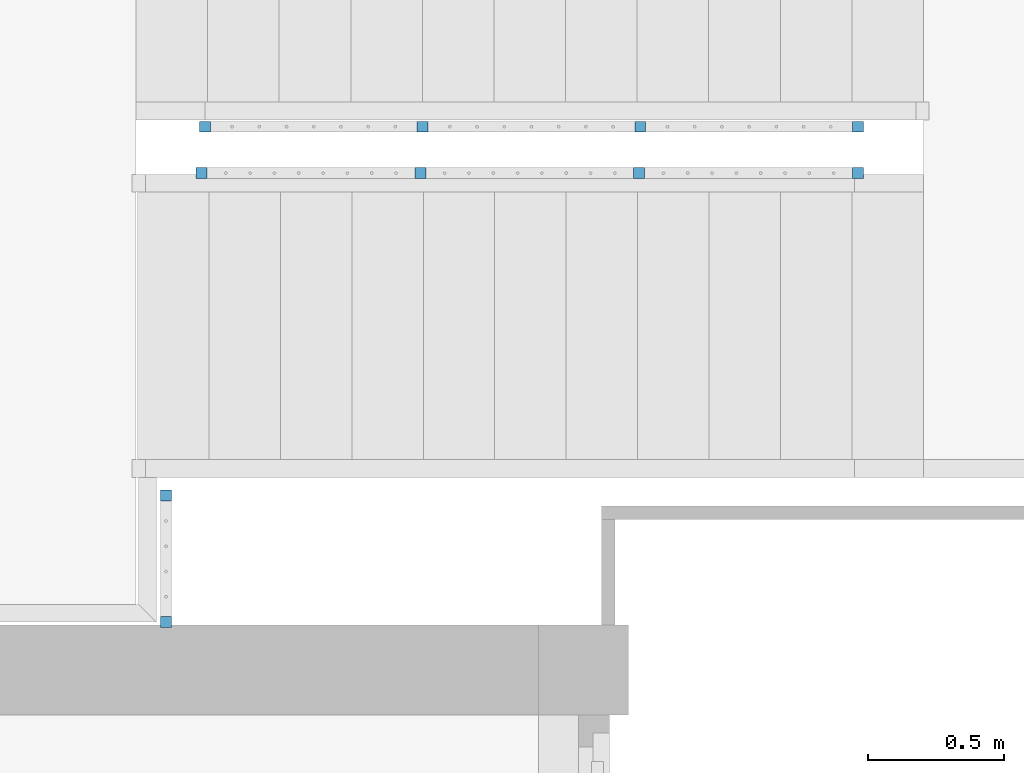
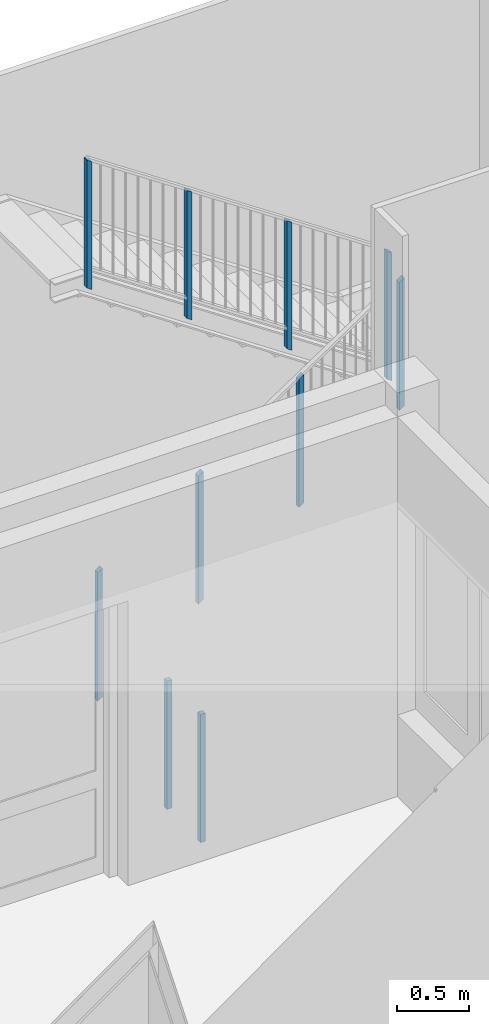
# One storey, part 2 of 117: 10 members, 3 elements without a shape of their own.
"""IFC2X3 building model written with IfcOpenShell, lengths in millimetres."""

from ifc_helpers import new_model, entity, si_unit, converted_unit, derived_unit, money_unit, direction, frame, origin_with_axes, place, context, subcontext, project, spatial, faceted_brep, source, transform, mapped, material, type_object, type_shapes, element, aggregate, save


model = new_model("IFC2X3")

# Units and contexts
model_context = context("Model", 3, precision=0.01, world=origin_with_axes(), true_north=direction((0.0, 1.0)))
body_context = subcontext(model_context, "Body", "Model", "MODEL_VIEW")
ifc_project = project(units=[si_unit("LENGTHUNIT", "METRE", prefix="MILLI"), si_unit("AREAUNIT", "SQUARE_METRE"), si_unit("VOLUMEUNIT", "CUBIC_METRE"), converted_unit("PLANEANGLEUNIT", "DEGREE", entity("IfcPlaneAngleMeasure", 0.0174532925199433), si_unit("PLANEANGLEUNIT", "RADIAN"), dimensions=[0, 0, 0, 0, 0, 0, 0]), money_unit("EUR"), converted_unit("TIMEUNIT", "Year", entity("IfcTimeMeasure", 31557600.0), si_unit("TIMEUNIT", "SECOND"), dimensions=[0, 0, 1, 0, 0, 0, 0]), si_unit("MASSUNIT", "GRAM", prefix="KILO"), si_unit("THERMODYNAMICTEMPERATUREUNIT", "DEGREE_CELSIUS"), si_unit("LUMINOUSINTENSITYUNIT", "LUMEN"), si_unit("ENERGYUNIT", "JOULE", prefix="MEGA"), derived_unit("THERMALCONDUCTANCEUNIT", [(si_unit("POWERUNIT", "WATT"), 1), (si_unit("LENGTHUNIT", "METRE"), -1), (si_unit("THERMODYNAMICTEMPERATUREUNIT", "KELVIN"), -1)]), derived_unit("SPECIFICHEATCAPACITYUNIT", [(si_unit("ENERGYUNIT", "JOULE"), 1), (si_unit("MASSUNIT", "GRAM", prefix="KILO"), -1), (si_unit("THERMODYNAMICTEMPERATUREUNIT", "KELVIN"), -1)]), derived_unit("MASSDENSITYUNIT", [(si_unit("MASSUNIT", "GRAM", prefix="KILO"), 1), (si_unit("VOLUMEUNIT", "CUBIC_METRE"), -1)])], contexts=[model_context])

# Site, building, storey
site_placement = place(None, origin_with_axes())
site = spatial("IfcSite", under=ifc_project, at=site_placement, Name="Site", CompositionType="ELEMENT")
building_placement = place(site_placement, origin_with_axes())
building = spatial("IfcBuilding", under=site, at=building_placement, Name="Naam gebouw", CompositionType="ELEMENT")
storey_placement = place(building_placement, frame((0.0, 0.0, 4150.0), z_axis=(0.0, 0.0, 1.0), x_axis=(1.0, 0.0, 0.0)))
storey = spatial("IfcBuildingStorey", under=building, at=storey_placement, Name="1e verdieping N", CompositionType="ELEMENT", Elevation=4150.0)

# Railing, members
railing_type = type_object("IfcRailingType", Name="Railing Type", PredefinedType="NOTDEFINED")
railing_1_placement = place(storey_placement, frame((56209.65277777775, 21185.9124251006, 0.0), z_axis=(0.0, 0.0, 1.0), x_axis=(1.0, 0.0, 0.0)))
railing_1 = element("IfcRailing", 1, at=railing_1_placement, inside=storey, type_object=railing_type, Name="_Reling-x", PredefinedType="NOTDEFINED")
ifc_material = material(Name="Metaal - Staal C")
member_type = type_object("IfcMemberType", Name="IfcMember", PredefinedType="POST")
shared_shape_1 = source(origin_with_axes(), body_context, "Body", "Brep", [
    faceted_brep([(20.0, 20.0, 0.0), (-20.0, 20.0, 0.0), (-20.00000000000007, 20.0, 1080.0), (19.99999999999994, 20.0, 1080.0), (20.0, -20.0, 0.0), (-20.0, -20.0, 0.0), (-20.00000000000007, -20.0, 1080.0), (19.99999999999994, -20.0, 1080.0)], [[[0, 1, 2, 3]], [[0, 4, 5, 1]], [[1, 5, 6, 2]], [[3, 2, 6, 7]], [[4, 0, 3, 7]], [[5, 4, 7, 6]]]),
])
member_1_placement = place(railing_1_placement, frame((24.99999999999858, -519.999999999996, -100.0000000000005), z_axis=(0.0, 0.0, 1.0), x_axis=(1.0, 0.0, 0.0)))
member_1 = element("IfcMember", 2, at=member_1_placement, type_object=member_type, material=ifc_material, Name="_Hoofdbaluster-x", ObjectType="POST", context=body_context, shape_type="MappedRepresentation", body=[
    mapped(shared_shape_1, transform((0.0, 0.0, 0.0))),
])
member_2_placement = place(railing_1_placement, frame((24.99999999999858, -56.93226273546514, -100.0000000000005), z_axis=(0.0, 0.0, 1.0), x_axis=(1.0, 0.0, 0.0)))
member_2 = element("IfcMember", 3, at=member_2_placement, type_object=member_type, material=ifc_material, Name="_Hoofdbaluster-x", ObjectType="POST", context=body_context, shape_type="MappedRepresentation", body=[
    mapped(shared_shape_1, transform((0.0, 0.0, 0.0))),
])
aggregate(railing_1, [member_1, member_2])

railing_2_placement = place(storey_placement, frame((56130.0, 22505.9124251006, 1905.987766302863), z_axis=(0.0, 0.0, 1.0), x_axis=(1.0, 0.0, 0.0)))
railing_2 = element("IfcRailing", 4, at=railing_2_placement, inside=storey, type_object=railing_type, Name="_Reling-x", PredefinedType="NOTDEFINED")
shared_shape_2 = source(origin_with_axes(), body_context, "Body", "Brep", [
    faceted_brep([(-20.0, 20.0, -13.4287227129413), (-19.99999999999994, 20.0, 1066.571277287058), (20.00000000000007, 20.0, 1066.571277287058), (20.0, 20.0, -13.4287227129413), (-20.0, -20.0, 13.4287227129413), (-19.99999999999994, -20.0, 1093.42872271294), (20.00000000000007, -20.0, 1093.42872271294), (20.0, -20.0, 13.4287227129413)], [[[0, 1, 2, 3]], [[4, 5, 1, 0]], [[1, 5, 6, 2]], [[3, 2, 6, 7]], [[0, 3, 7, 4]], [[7, 6, 5, 4]]]),
])
member_3_placement = place(railing_2_placement, frame((2639.999999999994, -24.99999999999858, -99.99999999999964), z_axis=(0.0, 0.0, 1.0), x_axis=(1.0, 0.0, 0.0)))
member_3 = element("IfcMember", 5, at=member_3_placement, type_object=member_type, material=ifc_material, Name="_Hoofdbaluster-x", ObjectType="POST", context=body_context, shape_type="MappedRepresentation", body=[
    mapped(shared_shape_2, transform((0.0, 0.0, 0.0), x_axis=(0.0, -1.0, 0.0), y_axis=(1.0, 0.0, 0.0), z_axis=(0.0, 0.0, 1.0))),
])
member_4_placement = place(railing_2_placement, frame((247.0144611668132, -24.99999999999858, 1506.736962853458), z_axis=(0.0, 0.0, 1.0), x_axis=(1.0, 0.0, 0.0)))
member_4 = element("IfcMember", 6, at=member_4_placement, type_object=member_type, material=ifc_material, Name="_Hoofdbaluster-x", ObjectType="POST", context=body_context, shape_type="MappedRepresentation", body=[
    mapped(shared_shape_2, transform((0.0, 0.0, 0.0), x_axis=(0.0, -1.0, 0.0), y_axis=(1.0, 0.0, 0.0), z_axis=(0.0, 0.0, 1.0))),
])
member_5_placement = place(railing_2_placement, frame((1044.67630744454, -24.99999999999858, 971.1579752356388), z_axis=(0.0, 0.0, 1.0), x_axis=(1.0, 0.0, 0.0)))
member_5 = element("IfcMember", 7, at=member_5_placement, type_object=member_type, material=ifc_material, Name="_Baluster-x", ObjectType="POST", context=body_context, shape_type="MappedRepresentation", body=[
    mapped(shared_shape_2, transform((0.0, 0.0, 0.0), x_axis=(0.0, -1.0, 0.0), y_axis=(1.0, 0.0, 0.0), z_axis=(0.0, 0.0, 1.0))),
])
member_6_placement = place(railing_2_placement, frame((1842.338153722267, -24.99999999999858, 435.57898761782), z_axis=(0.0, 0.0, 1.0), x_axis=(1.0, 0.0, 0.0)))
member_6 = element("IfcMember", 8, at=member_6_placement, type_object=member_type, material=ifc_material, Name="_Baluster-x", ObjectType="POST", context=body_context, shape_type="MappedRepresentation", body=[
    mapped(shared_shape_2, transform((0.0, 0.0, 0.0), x_axis=(0.0, -1.0, 0.0), y_axis=(1.0, 0.0, 0.0), z_axis=(0.0, 0.0, 1.0))),
])
aggregate(railing_2, [member_3, member_4, member_5, member_6])

railing_3_placement = place(storey_placement, frame((56130.0, 22285.9124251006, 163.6876419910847), z_axis=(0.0, 0.0, 1.0), x_axis=(1.0, 0.0, 0.0)))
railing_3 = element("IfcRailing", 9, at=railing_3_placement, inside=storey, type_object=railing_type, Name="_Reling-x", PredefinedType="NOTDEFINED")
shared_shape_3 = source(origin_with_axes(), body_context, "Body", "Brep", [
    faceted_brep([(20.0, 20.0, 13.36128546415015), (-20.0, 20.0, 13.36128546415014), (-20.00000000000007, 20.0, 1093.36128546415), (19.99999999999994, 20.0, 1093.36128546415), (20.0, -20.0, -13.36128546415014), (-20.0, -20.0, -13.36128546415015), (-20.00000000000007, -20.0, 1066.63871453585), (19.99999999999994, -20.0, 1066.63871453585)], [[[0, 1, 2, 3]], [[0, 4, 5, 1]], [[1, 5, 6, 2]], [[3, 2, 6, 7]], [[4, 0, 3, 7]], [[5, 4, 7, 6]]]),
])
type_shapes(member_type, [shared_shape_1, shared_shape_2, shared_shape_3])
member_7_placement = place(railing_3_placement, frame((234.6527777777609, 24.99999999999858, -99.99999999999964), z_axis=(0.0, 0.0, 1.0), x_axis=(1.0, 0.0, 0.0)))
member_7 = element("IfcMember", 10, at=member_7_placement, type_object=member_type, material=ifc_material, Name="_Hoofdbaluster-x", ObjectType="POST", context=body_context, shape_type="MappedRepresentation", body=[
    mapped(shared_shape_3, transform((0.0, 0.0, 0.0), x_axis=(0.0, -1.0, 0.0), y_axis=(1.0, 0.0, 0.0), z_axis=(0.0, 0.0, 1.0))),
])
member_8_placement = place(railing_3_placement, frame((2639.999999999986, 24.99999999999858, 1506.926543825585), z_axis=(0.0, 0.0, 1.0), x_axis=(1.0, 0.0, 0.0)))
member_8 = element("IfcMember", 11, at=member_8_placement, type_object=member_type, material=ifc_material, Name="_Hoofdbaluster-x", ObjectType="POST", context=body_context, shape_type="MappedRepresentation", body=[
    mapped(shared_shape_3, transform((0.0, 0.0, 0.0), x_axis=(0.0, -1.0, 0.0), y_axis=(1.0, 0.0, 0.0), z_axis=(0.0, 0.0, 1.0))),
])
member_9_placement = place(railing_3_placement, frame((1036.435185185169, 24.99999999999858, 435.6421812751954), z_axis=(0.0, 0.0, 1.0), x_axis=(1.0, 0.0, 0.0)))
member_9 = element("IfcMember", 12, at=member_9_placement, type_object=member_type, material=ifc_material, Name="_Baluster-x", ObjectType="POST", context=body_context, shape_type="MappedRepresentation", body=[
    mapped(shared_shape_3, transform((0.0, 0.0, 0.0), x_axis=(0.0, -1.0, 0.0), y_axis=(1.0, 0.0, 0.0), z_axis=(0.0, 0.0, 1.0))),
])
member_10_placement = place(railing_3_placement, frame((1838.217592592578, 24.99999999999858, 971.2843625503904), z_axis=(0.0, 0.0, 1.0), x_axis=(1.0, 0.0, 0.0)))
member_10 = element("IfcMember", 13, at=member_10_placement, type_object=member_type, material=ifc_material, Name="_Baluster-x", ObjectType="POST", context=body_context, shape_type="MappedRepresentation", body=[
    mapped(shared_shape_3, transform((0.0, 0.0, 0.0), x_axis=(0.0, -1.0, 0.0), y_axis=(1.0, 0.0, 0.0), z_axis=(0.0, 0.0, 1.0))),
])
aggregate(railing_3, [member_7, member_8, member_9, member_10])

save(model, "model.ifc")
